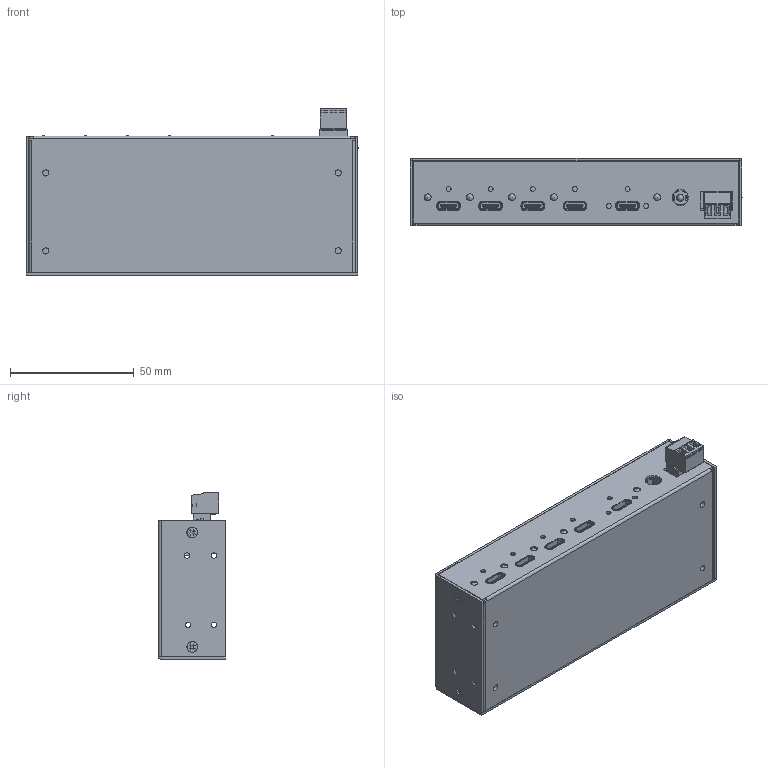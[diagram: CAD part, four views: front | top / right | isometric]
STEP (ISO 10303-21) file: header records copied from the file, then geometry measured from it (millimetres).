
FILE_DESCRIPTION(/* description */ (''),/* implementation_level */ '2;1');
FILE_NAME(/* name */ 'GM-HU34CC-DW v11.step',/* time_stamp */ '2024-04-21T09:15:28-04:00',/* author */ (''),/* organization */ (''),/* preprocessor_version */ 'ST-DEVELOPER v20',/* originating_system */ 'Autodesk Translation Framework v12.20.1.177',/* authorisation */ '');
FILE_SCHEMA (('AUTOMOTIVE_DESIGN { 1 0 10303 214 3 1 1 }'));
Products named in the file (36): GM-HU34CC-DW; Component1; USB type C mounting pcb; LED 1 Block mounting pcb; USB type C mounting pcb_1; LED 1 Block mounting pcb_1; USB type C mounting pcb_2; LED 1 Block mounting pcb_2; USB type C mounting pcb_3; LED 1 Block mounting pcb_3; USB type C mounting pcb_4; TypeC(12); LED 1 Block mounting pcb_4; User_Library-Led_3mm_Dialight_mod__551-1107F; Connector  Volts Block Metalic Case; pj-082bh; pj-082bh (1); pj-082bh (2); pj-082bh (3); pj-082bh (4); pj-082bh (5); pj-082bh (6); pj-082bh (7); pj-082bh (8); pj-082bh (9); pj-082bh (10); pj-082bh (11); ECH350R-03P; ECH350R-03P.stp; ECH350R-03P body.stp; contact.stp; EC350V-03P; EC350V-03P body; body_screw EC350V; Component2; PRT0022
Assembly tree (50 placements, depth 4):
  GM-HU34CC-DW
    Component1
    USB type C mounting pcb
      TypeC(12)
    LED 1 Block mounting pcb
      User_Library-Led_3mm_Dialight_mod__551-1107F
    USB type C mounting pcb_1
      TypeC(12)
    LED 1 Block mounting pcb_1
      User_Library-Led_3mm_Dialight_mod__551-1107F
    USB type C mounting pcb_2
      TypeC(12)
    LED 1 Block mounting pcb_2
      User_Library-Led_3mm_Dialight_mod__551-1107F
    USB type C mounting pcb_3
      TypeC(12)
    LED 1 Block mounting pcb_3
      User_Library-Led_3mm_Dialight_mod__551-1107F
    USB type C mounting pcb_4
      TypeC(12)
    LED 1 Block mounting pcb_4
      User_Library-Led_3mm_Dialight_mod__551-1107F
    Connector  Volts Block Metalic Case
      pj-082bh
      pj-082bh (1)
      pj-082bh (2)
      pj-082bh (3)
      pj-082bh (4)
      pj-082bh (5)
      pj-082bh (6)
      pj-082bh (7)
      pj-082bh (8)
      pj-082bh (9)
      pj-082bh (10)
      pj-082bh (11)
    ECH350R-03P
      ECH350R-03P.stp
        ECH350R-03P body.stp
        contact.stp  x3
    EC350V-03P
      EC350V-03P body
      body_screw EC350V  x3
    Component2
    PRT0022  x4
Bounding box: 134.1 x 27.2 x 67.3 mm (x, y, z)
Volume: 39411.6 mm3; surface area: 77030.4 mm2
Topology: 37 solids, 37 shells, 3876 faces, 10616 edges, 6913 vertices
Faces by surface type: plane 2850, cylinder 814, bspline 96, cone 50, torus 36, sphere 30
Full cylindrical faces by diameter (mm): 0.5 x10, 1.2 x5, 1.35 x1, 2 x8, 2.175 x23, 2.2 x3, 2.21 x3, 2.4 x1, 2.5 x8, 2.6 x4, 2.66 x6, 2.8 x7, 2.85 x2, 2.89 x5, 4.2 x4, 5.54 x4, 6.58 x1
Entity records: 58650 total; most frequent: CARTESIAN_POINT 14197, ORIENTED_EDGE 9028, DIRECTION 8681, EDGE_CURVE 4514, LINE 3433, VECTOR 3433, VERTEX_POINT 2939, AXIS2_PLACEMENT_3D 2624
